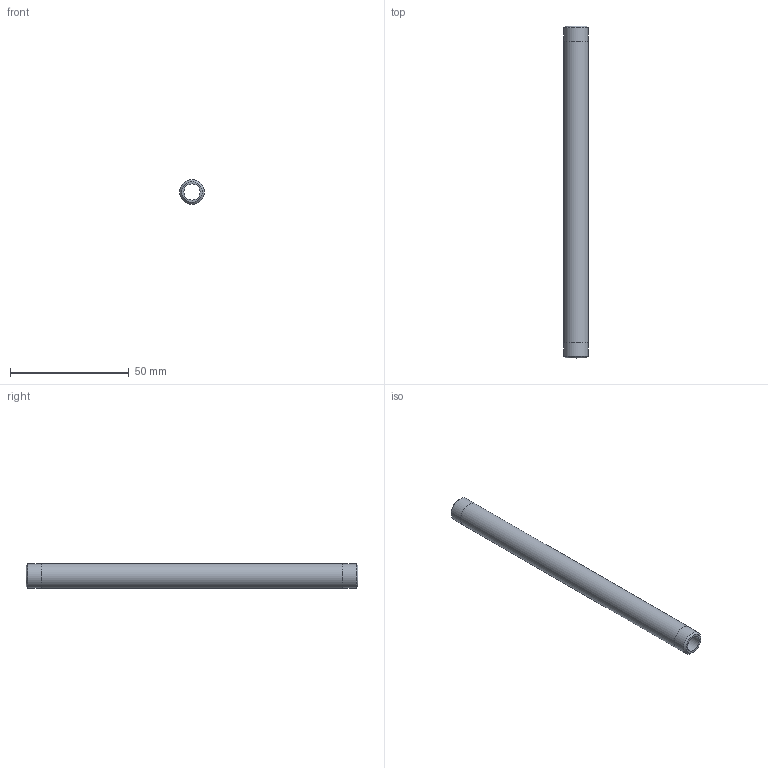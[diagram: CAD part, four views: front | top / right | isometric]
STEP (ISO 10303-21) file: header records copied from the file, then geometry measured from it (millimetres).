
FILE_DESCRIPTION(/* description */ (''),/* implementation_level */ '2;1');
FILE_NAME(/* name */ 'C:/Users/drich/Desktop/SSPN18-5-1_2 v1.step',/* time_stamp */ '2020-01-04T13:32:19-06:00',/* author */ (''),/* organization */ (''),/* preprocessor_version */ 'ST-DEVELOPER v18',/* originating_system */ 'Autodesk Translation Framework v8.12.0.6',/* authorisation */ '');
FILE_SCHEMA (('AUTOMOTIVE_DESIGN { 1 0 10303 214 3 1 1 }'));
Length unit declared in the file: inch
Products named in the file (1): SSPN18-5-1_2
Bounding box: 10.31 x 139.7 x 10.31 mm (x, y, z)
Volume: 6517.8 mm3; surface area: 7586 mm2
Topology: 1 solids, 1 shells, 10 faces, 24 edges, 18 vertices
Faces by surface type: cylinder 4, plane 4, cone 2
Full cylindrical faces by diameter (mm): 6.833 x1, 10.262 x2, 10.312 x1
Entity records: 353 total; most frequent: DIRECTION 64, CARTESIAN_POINT 53, ORIENTED_EDGE 48, AXIS2_PLACEMENT_3D 29, EDGE_CURVE 24, CIRCLE 18, VERTEX_POINT 18, EDGE_LOOP 14
